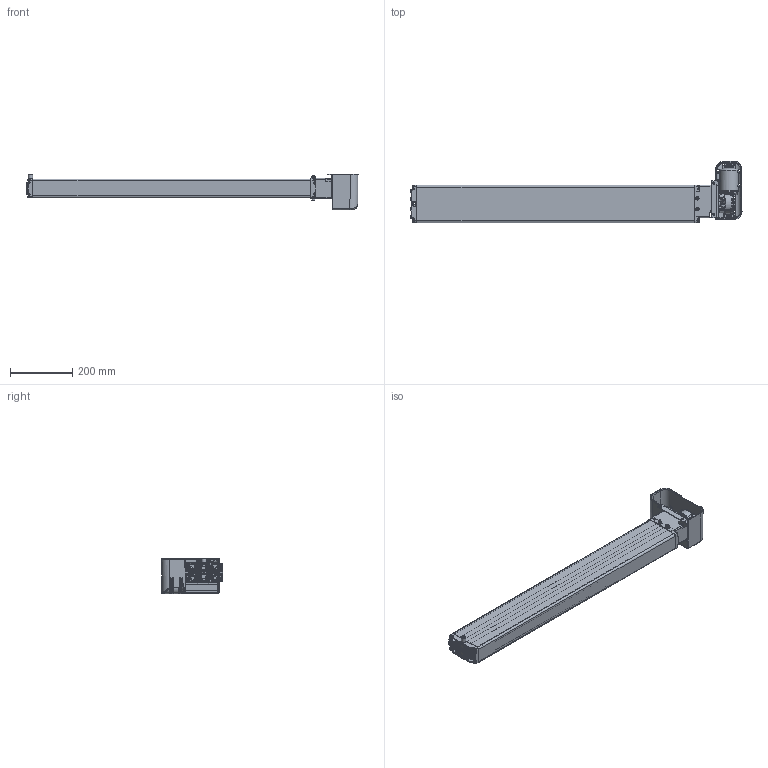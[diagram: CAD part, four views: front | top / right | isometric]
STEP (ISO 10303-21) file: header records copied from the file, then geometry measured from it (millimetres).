
FILE_DESCRIPTION(/* description */ ('Unknown'),/* implementation_level */ '2;1');
FILE_NAME(/* name */ '3X2.20040 Pumpe PB 6866 W mit Antrieb',/* time_stamp */ '2016-10-03T15:22:57+02:00',/* author */ ('Unknown'),/* organization */ ('Unknown'),/* preprocessor_version */ 'ST-DEVELOPER v16.7',/* originating_system */ 'DEX',/* authorisation */ $);
FILE_SCHEMA (('AUTOMOTIVE_DESIGN {1 0 10303 214 3 1 1}'));
Products named in the file (31): 102.20040; 115.00038; 125.00045; 115.00008; 142.00021; 125.00021; 142.00013; 125.00147; 115.00140; 126.00006; 122.00040; 119.00047; 126.00005; 127.00201; 127.00200; 127.00023; 124.00090; Getriebe; Ring; Schraube; Stator; Abdeckplatte; Antriebswelle; 128.00051; 123.00031; 142.00018; 142.00019; 142.00025; 142.00131; 123.00029; 142.00057
Assembly tree (47 placements, depth 3):
  102.20040
    115.00038  x6
      125.00045
      115.00008
      142.00021
      125.00021
    142.00013  x8
    125.00147
    115.00140
      126.00006
      122.00040
    119.00047
    126.00005
    127.00201
      127.00200
      127.00023
    124.00090
      Getriebe
      Ring
      Schraube
      Stator
      Abdeckplatte
      Antriebswelle
    128.00051
    123.00031
    142.00018  x2
    142.00019  x2
    142.00025  x2
    142.00131  x3
    123.00029
    142.00057
Bounding box: 1065.92 x 196.04 x 115.45 mm (x, y, z)
Volume: 1586324 mm3; surface area: 1059350.6 mm2
Topology: 52 solids, 54 shells, 4862 faces, 12306 edges, 7463 vertices
Faces by surface type: bspline 1367, plane 1333, cylinder 1277, cone 515, torus 270, sphere 100
Full cylindrical faces by diameter (mm): 2.5 x4, 3.2 x4, 3.5 x6, 3.9 x5, 4.1 x6, 4.2 x8, 4.4 x5, 4.5 x1, 4.917 x2, 5 x8, 5.5 x5, 6 x6, 6.4 x2, 6.8 x5, 6.917 x12, 7 x1, 8 x14, 8.5 x6, 9 x2, 9.5 x1, 9.8 x8, 10 x8, 10.3 x1, 10.32 x1, 10.4 x1, 11 x5, 14 x2, 14.4 x6, 15 x1, 17 x1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
Entity records: 202554 total; most frequent: CARTESIAN_POINT 105865, ORIENTED_EDGE 19210, DIRECTION 14206, EDGE_CURVE 9605, VERTEX_POINT 6188, AXIS2_PLACEMENT_3D 5593, FACE_BOUND 4587, EDGE_LOOP 4582
